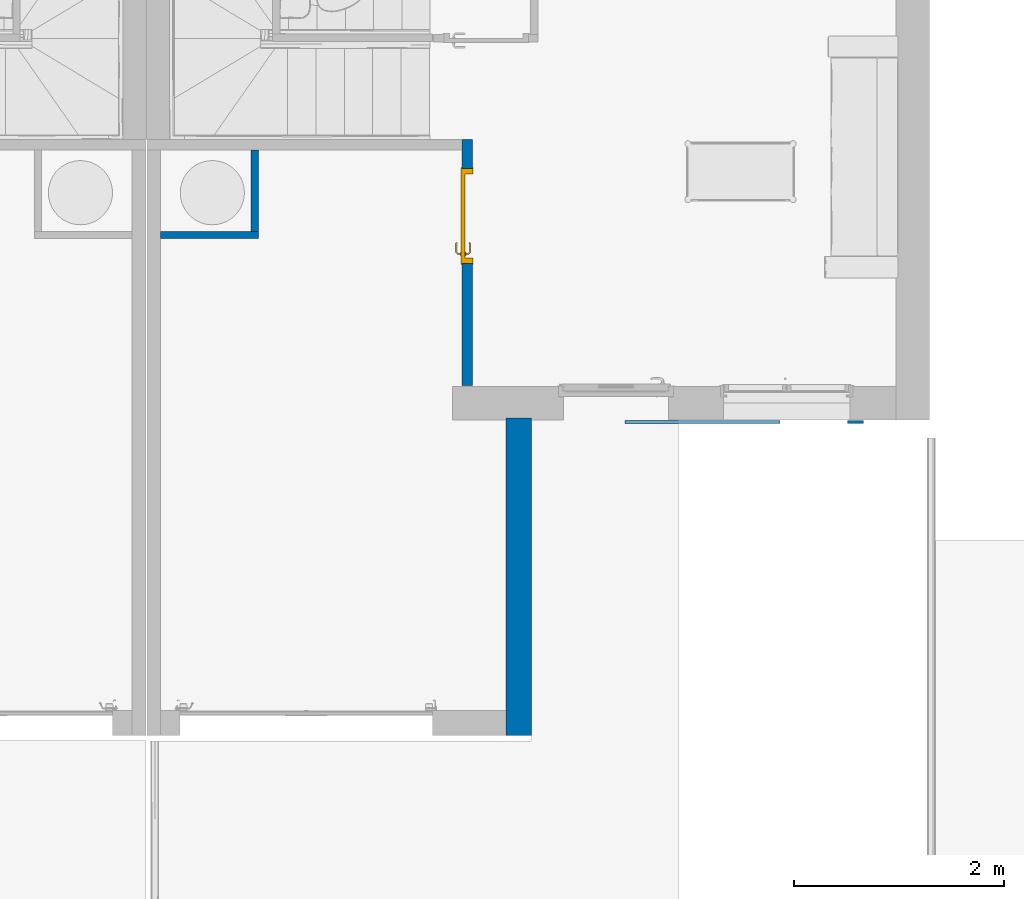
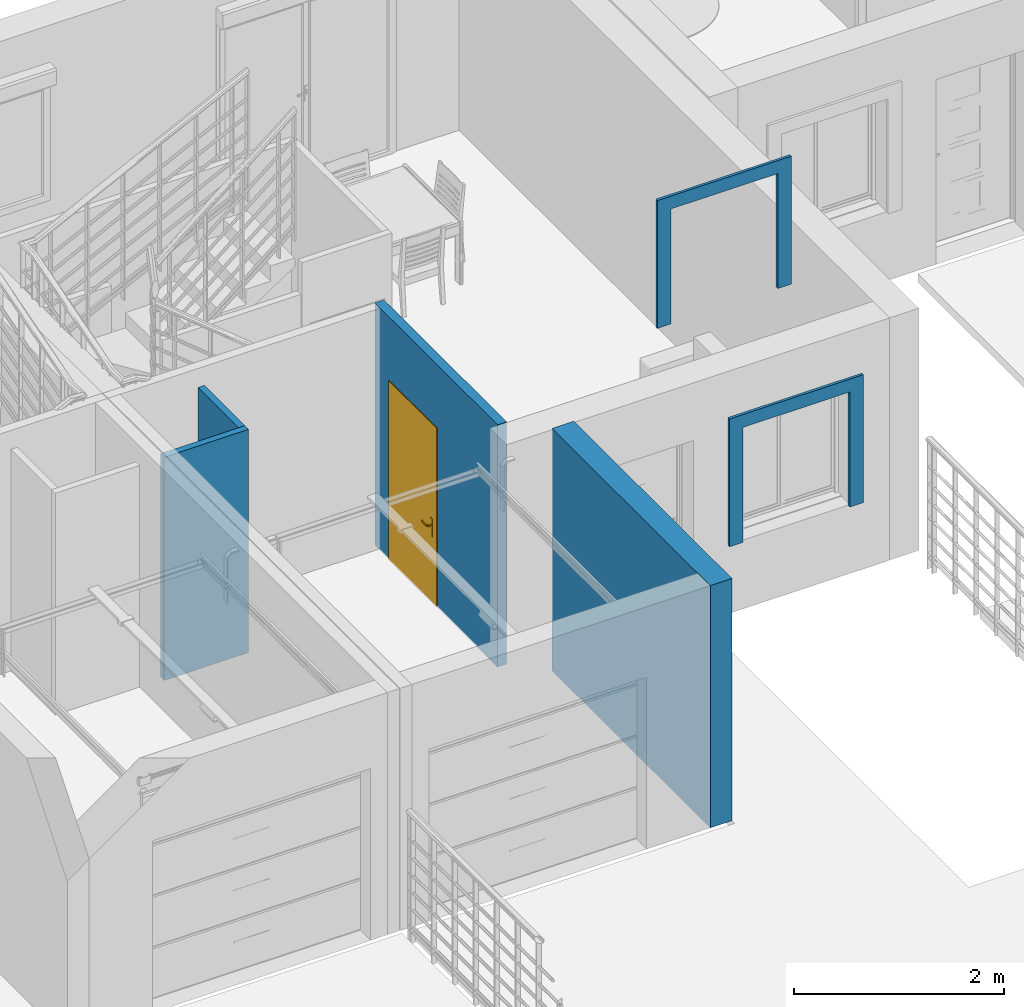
# One storey, part 7 of 30: 6 walls, 1 door, 3 openings.
"""IFC2X3 building model written with IfcOpenShell, lengths in metres."""

from ifc_helpers import new_model, entity, si_unit, converted_unit, derived_unit, direction, frame, frame_2d, origin, place, context, subcontext, project, spatial, rectangle, extrude, clip, halfspace, faceted_brep, source, transform, mapped, material, material_list, layer, layer_set, layer_usage, type_object, type_shapes, element, fill, save


model = new_model("IFC2X3")

# Units and contexts
model_context = context("Model", 3, precision=1e-05, world=origin(), true_north=direction((6.12303176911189e-17, 1.0)))
body_context = subcontext(model_context, "Body", "Model", "MODEL_VIEW")
ifc_project = project(units=[si_unit("LENGTHUNIT", "METRE"), si_unit("AREAUNIT", "SQUARE_METRE"), si_unit("VOLUMEUNIT", "CUBIC_METRE"), converted_unit("PLANEANGLEUNIT", "DEGREE", entity("IfcRatioMeasure", 0.0174532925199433), si_unit("PLANEANGLEUNIT", "RADIAN"), dimensions=[0, 0, 0, 0, 0, 0, 0]), si_unit("MASSUNIT", "GRAM", prefix="KILO"), derived_unit("MASSDENSITYUNIT", [(si_unit("MASSUNIT", "GRAM", prefix="KILO"), 1), (si_unit("LENGTHUNIT", "METRE"), -3)]), si_unit("TIMEUNIT", "SECOND"), si_unit("FREQUENCYUNIT", "HERTZ"), si_unit("THERMODYNAMICTEMPERATUREUNIT", "DEGREE_CELSIUS"), derived_unit("THERMALTRANSMITTANCEUNIT", [(si_unit("MASSUNIT", "GRAM", prefix="KILO"), 1), (si_unit("THERMODYNAMICTEMPERATUREUNIT", "KELVIN"), -1), (si_unit("TIMEUNIT", "SECOND"), -3)]), derived_unit("VOLUMETRICFLOWRATEUNIT", [(si_unit("LENGTHUNIT", "METRE"), 3), (si_unit("TIMEUNIT", "SECOND"), -1)]), si_unit("ELECTRICCURRENTUNIT", "AMPERE"), si_unit("ELECTRICVOLTAGEUNIT", "VOLT"), si_unit("POWERUNIT", "WATT"), si_unit("FORCEUNIT", "NEWTON", prefix="KILO"), si_unit("ILLUMINANCEUNIT", "LUX"), si_unit("LUMINOUSFLUXUNIT", "LUMEN"), si_unit("LUMINOUSINTENSITYUNIT", "CANDELA"), derived_unit("USERDEFINED", [(si_unit("MASSUNIT", "GRAM", prefix="KILO"), -1), (si_unit("LENGTHUNIT", "METRE"), -2), (si_unit("TIMEUNIT", "SECOND"), 3), (si_unit("LUMINOUSFLUXUNIT", "LUMEN"), 1)]), derived_unit("LINEARVELOCITYUNIT", [(si_unit("LENGTHUNIT", "METRE"), 1), (si_unit("TIMEUNIT", "SECOND"), -1)]), si_unit("PRESSUREUNIT", "PASCAL"), derived_unit("USERDEFINED", [(si_unit("LENGTHUNIT", "METRE"), -2), (si_unit("MASSUNIT", "GRAM", prefix="KILO"), 1), (si_unit("TIMEUNIT", "SECOND"), -2)])], contexts=[model_context])

# Site, building, storey
site_placement = place(None, origin())
site = spatial("IfcSite", under=ifc_project, at=site_placement, Name="Surface", CompositionType="ELEMENT")
building_placement = place(site_placement, origin())
building = spatial("IfcBuilding", under=site, at=building_placement, CompositionType="ELEMENT")
storey_placement = place(building_placement, origin())
storey = spatial("IfcBuildingStorey", under=building, at=storey_placement, Name="Plan des fondations  Maisons 1 et 2", CompositionType="ELEMENT", Elevation=0.0)

# Wall
ifc_material_1 = material(Name="Enduit  gris")
ifc_layer_1 = layer(ifc_material_1, 0.02)
ifc_material_2 = material(Name="Parpaing")
ifc_layer_2 = layer(ifc_material_2, 0.2)
ifc_layer_3 = layer(ifc_material_1, 0.02)
ifc_layer_set_1 = layer_set([ifc_layer_1, ifc_layer_2, ifc_layer_3], Name="Mur de base:Ext. Parpaing 2 + 20 + 2 gris")
ifc_layer_usage_1 = layer_usage(ifc_layer_set_1, "AXIS2", "NEGATIVE", 0.12)
wall_type_1 = type_object("IfcWallType", Name="Mur de base:Ext. Parpaing 2 + 20 + 2 gris", PredefinedType="STANDARD", material=ifc_layer_set_1)
wall_1_placement = place(storey_placement, frame((72.3746263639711, 76.8877566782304, 0.0), z_axis=(0.0, 0.0, 1.0), x_axis=(0.0, 1.0, 0.0)))
element("IfcWallStandardCase", 1, at=wall_1_placement, inside=storey, type_object=wall_type_1, material=ifc_layer_usage_1, Name="Mur de base:Ext. Parpaing 2 + 20 + 2 gris", ObjectType="Mur de base:Ext. Parpaing 2 + 20 + 2 gris", context=body_context, shape_type="SweptSolid", body=[
    extrude(rectangle(XDim=3.02000000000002, YDim=0.239999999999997, at=frame_2d((1.51000000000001, 5.41233724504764e-16), x_axis=(-1.0, 0.0))), origin(), (0.0, 0.0, 1.0), 2.82),
])

# Wall, opening, door
ifc_material_3 = material(Name="Peinture - Blanc")
ifc_layer_4 = layer(ifc_material_3, 0.1)
ifc_layer_set_2 = layer_set([ifc_layer_4], Name="Mur de base:Int.  Platre 100 mm en blanc 2")
ifc_layer_usage_2 = layer_usage(ifc_layer_set_2, "AXIS2", "NEGATIVE", 0.05)
wall_type_2 = type_object("IfcWallType", Name="Mur de base:Int.  Platre 100 mm en blanc 2", PredefinedType="STANDARD", material=ifc_layer_set_2)
wall_2_placement = place(storey_placement, frame((71.8846263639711, 80.2177566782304, 0.0), z_axis=(0.0, 0.0, 1.0), x_axis=(0.0, 1.0, 0.0)))
wall_2 = element("IfcWallStandardCase", 2, at=wall_2_placement, inside=storey, type_object=wall_type_2, material=ifc_layer_usage_2, Name="Mur de base:Int.  Platre 100 mm en blanc 2", ObjectType="Mur de base:Int.  Platre 100 mm en blanc 2", context=body_context, shape_type="SweptSolid", body=[
    extrude(rectangle(XDim=2.33999999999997, YDim=0.0999999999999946, at=frame_2d((1.16999999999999, -5.58580959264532e-16), x_axis=(-1.0, 0.0))), origin(), (0.0, 0.0, 1.0), 2.82),
])
opening_1_placement = place(wall_2_placement, frame((1.15999999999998, -0.0499999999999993, 0.0)))
opening_1 = element("IfcOpeningElement", 3, at=opening_1_placement, cuts=wall_2, Name="FR_Simple (R):83 x 204 - (80):1", ObjectType="Opening", context=body_context, shape_type="SweptSolid", body=[
    extrude(rectangle(XDim=2.075, YDim=0.9, at=frame_2d((1.0375, 0.45), x_axis=(1.0, 0.0))), frame((0.0, 0.0, 0.0), z_axis=(0.0, 1.0, 0.0), x_axis=(0.0, 0.0, 1.0)), (0.0, 0.0, 1.0), 0.1),
])
ifc_material_4 = material(Name="Poignée Porte")
ifc_material_5 = material(Name="Dormants Portes")
ifc_material_6 = material(Name="Panneaux Portes")
ifc_material_list_1 = material_list([ifc_material_4, ifc_material_5, ifc_material_6])
ifc_material_list_2 = material_list([ifc_material_4, ifc_material_5, ifc_material_6])
door_style = type_object("IfcDoorStyle", Name="83 x 204 - (80)", ConstructionType="NOTDEFINED", OperationType="SINGLE_SWING_RIGHT", ParameterTakesPrecedence=False, Sizeable=False, material=ifc_material_list_2)
shared_shape = source(origin(), body_context, "Body", "Brep", [
    faceted_brep([(0.810000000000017, -0.0130000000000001, 0.764641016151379), (0.820352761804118, -0.0130000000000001, 0.766003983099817), (0.830000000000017, -0.0130000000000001, 0.770000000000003), (0.830000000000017, -0.0130000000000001, 0.980000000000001), (0.820352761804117, -0.0130000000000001, 0.983996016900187), (0.810000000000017, -0.0130000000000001, 0.985358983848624), (0.799647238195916, -0.0130000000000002, 0.983996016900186), (0.790000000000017, -0.0130000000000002, 0.980000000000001), (0.790000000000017, -0.0130000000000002, 0.770000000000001), (0.799647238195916, -0.0130000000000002, 0.766003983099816), (0.830000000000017, -0.00800000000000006, 0.980000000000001), (0.830000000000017, -0.00800000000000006, 0.770000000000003), (0.820352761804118, -0.00800000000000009, 0.766003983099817), (0.810000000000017, -0.00800000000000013, 0.764641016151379), (0.799647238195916, -0.00800000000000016, 0.766003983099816), (0.790000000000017, -0.00800000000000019, 0.770000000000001), (0.790000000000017, -0.00800000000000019, 0.980000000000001), (0.799647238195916, -0.00800000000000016, 0.983996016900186), (0.810000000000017, -0.00800000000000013, 0.985358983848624), (0.820352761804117, -0.00800000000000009, 0.983996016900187)], [[[0, 1, 2, 3, 4, 5, 6, 7, 8, 9]], [[10, 11, 12, 13, 14, 15, 16, 17, 18, 19]], [[1, 12, 11, 2]], [[0, 13, 12, 1]], [[9, 14, 13, 0]], [[9, 8, 15, 14]], [[15, 8, 7, 16]], [[6, 17, 16, 7]], [[5, 18, 17, 6]], [[4, 19, 18, 5]], [[4, 3, 10, 19]], [[10, 3, 2, 11]]]),
    faceted_brep([(0.830000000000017, 0.0319999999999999, 0.770000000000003), (0.830000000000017, 0.0319999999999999, 0.980000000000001), (0.820352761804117, 0.0319999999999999, 0.983996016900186), (0.810000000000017, 0.0319999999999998, 0.985358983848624), (0.799647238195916, 0.0319999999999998, 0.983996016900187), (0.790000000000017, 0.0319999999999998, 0.980000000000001), (0.790000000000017, 0.0319999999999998, 0.770000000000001), (0.799647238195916, 0.0319999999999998, 0.766003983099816), (0.810000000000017, 0.0319999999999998, 0.764641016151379), (0.820352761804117, 0.0319999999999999, 0.766003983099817), (0.810000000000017, 0.0369999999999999, 0.985358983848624), (0.820352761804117, 0.0369999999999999, 0.983996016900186), (0.830000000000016, 0.0369999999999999, 0.980000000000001), (0.830000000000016, 0.0369999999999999, 0.770000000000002), (0.820352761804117, 0.0369999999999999, 0.766003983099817), (0.810000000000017, 0.0369999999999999, 0.764641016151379), (0.799647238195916, 0.0369999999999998, 0.766003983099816), (0.790000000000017, 0.0369999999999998, 0.770000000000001), (0.790000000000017, 0.0369999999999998, 0.980000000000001), (0.799647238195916, 0.0369999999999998, 0.983996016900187)], [[[0, 1, 2, 3, 4, 5, 6, 7, 8, 9]], [[10, 11, 12, 13, 14, 15, 16, 17, 18, 19]], [[4, 19, 18, 5]], [[3, 10, 19, 4]], [[2, 11, 10, 3]], [[2, 1, 12, 11]], [[12, 1, 0, 13]], [[9, 14, 13, 0]], [[8, 15, 14, 9]], [[7, 16, 15, 8]], [[7, 6, 17, 16]], [[17, 6, 5, 18]]]),
    faceted_brep([(0.807974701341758, -0.0130000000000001, 0.907780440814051), (0.812025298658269, -0.0130000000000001, 0.907780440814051), (0.816000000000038, -0.0130000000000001, 0.906999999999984), (0.816000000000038, -0.0130000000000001, 0.892999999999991), (0.812025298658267, -0.0130000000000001, 0.892219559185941), (0.807974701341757, -0.0130000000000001, 0.89221955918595), (0.80399999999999, -0.0130000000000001, 0.893000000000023), (0.803999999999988, -0.0130000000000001, 0.90699999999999), (0.812025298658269, -0.0390045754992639, 0.907780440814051), (0.816000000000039, -0.0406509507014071, 0.906999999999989), (0.807974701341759, -0.0373267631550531, 0.907780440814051), (0.794298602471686, -0.0510028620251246, 0.907780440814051), (0.795976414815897, -0.0550534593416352, 0.907780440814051), (0.709142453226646, -0.0550534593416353, 0.90778044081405), (0.710820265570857, -0.0510028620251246, 0.90778044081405), (0.704342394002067, -0.0445249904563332, 0.90778044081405), (0.701478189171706, -0.0473891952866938, 0.90778044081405), (0.803999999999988, -0.0356803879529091, 0.90699999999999), (0.80399999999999, -0.0356803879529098, 0.893000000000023), (0.807974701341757, -0.0373267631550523, 0.89221955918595), (0.812025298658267, -0.0390045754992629, 0.89221955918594), (0.795976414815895, -0.0550534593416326, 0.89221955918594), (0.794298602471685, -0.0510028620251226, 0.89221955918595), (0.710820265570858, -0.0510028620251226, 0.89221955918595), (0.709142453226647, -0.0550534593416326, 0.89221955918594), (0.701478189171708, -0.0473891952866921, 0.89221955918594), (0.704342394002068, -0.044524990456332, 0.89221955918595), (0.816000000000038, -0.0406509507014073, 0.892999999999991), (0.797622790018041, -0.059028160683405, 0.906999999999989), (0.792652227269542, -0.0470281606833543, 0.90699999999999), (0.792652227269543, -0.0470281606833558, 0.893000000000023), (0.79762279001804, -0.0590281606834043, 0.892999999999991), (0.752559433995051, -0.053182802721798, 0.907878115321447), (0.757692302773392, -0.0590281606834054, 0.906999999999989), (0.707496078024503, -0.0590281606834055, 0.906999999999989), (0.752559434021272, -0.0470281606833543, 0.90699999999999), (0.712466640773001, -0.0470281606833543, 0.906999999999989), (0.752559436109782, -0.0470281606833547, 0.893000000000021), (0.712466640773, -0.0470281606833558, 0.893000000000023), (0.752559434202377, -0.0531828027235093, 0.892121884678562), (0.747426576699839, -0.0590281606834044, 0.892999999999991), (0.707496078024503, -0.0590281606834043, 0.892999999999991), (0.707152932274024, -0.0417144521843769, 0.89300000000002), (0.69866765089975, -0.0501997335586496, 0.892999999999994), (0.698667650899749, -0.0501997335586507, 0.906999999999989), (0.707152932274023, -0.0417144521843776, 0.906999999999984)], [[[0, 1, 2, 3, 4, 5, 6, 7]], [[2, 1, 8, 9]], [[1, 0, 10, 11, 12, 8]], [[13, 14, 15, 16]], [[0, 7, 17, 10]], [[18, 17, 7, 6]], [[5, 19, 18, 6]], [[5, 4, 20, 21, 22, 19]], [[23, 24, 25, 26]], [[3, 27, 20, 4]], [[9, 27, 3, 2]], [[9, 8, 12, 28]], [[10, 17, 29, 11]], [[30, 29, 17, 18]], [[18, 19, 22, 30]], [[20, 27, 31, 21]], [[28, 31, 27, 9]], [[12, 32, 33]], [[13, 33, 32]], [[33, 28, 12]], [[33, 13, 34]], [[11, 35, 32]], [[32, 12, 11]], [[32, 35, 14]], [[35, 11, 29]], [[36, 14, 35]], [[13, 32, 14]], [[30, 37, 38, 36, 35, 29]], [[39, 37, 22]], [[40, 41, 24]], [[40, 21, 31]], [[39, 21, 40]], [[23, 37, 39]], [[39, 24, 23]], [[30, 22, 37]], [[37, 23, 38]], [[21, 39, 22]], [[24, 39, 40]], [[31, 28, 33, 34, 41, 40]], [[42, 26, 25, 43, 44, 16, 15, 45]], [[13, 16, 44, 34]], [[36, 45, 15, 14]], [[42, 45, 36, 38]], [[38, 23, 26, 42]], [[24, 41, 43, 25]], [[44, 43, 41, 34]]]),
    faceted_brep([(0.812025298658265, 0.0369999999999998, 0.907780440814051), (0.807974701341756, 0.0369999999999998, 0.907780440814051), (0.803999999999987, 0.0369999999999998, 0.90699999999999), (0.803999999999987, 0.0369999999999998, 0.89300000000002), (0.807974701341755, 0.0369999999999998, 0.892219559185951), (0.812025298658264, 0.0369999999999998, 0.892219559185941), (0.816000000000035, 0.0369999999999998, 0.892999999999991), (0.816000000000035, 0.0369999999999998, 0.90699999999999), (0.803999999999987, 0.0594852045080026, 0.90699999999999), (0.803999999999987, 0.0594852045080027, 0.89300000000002), (0.807974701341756, 0.0611315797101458, 0.907780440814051), (0.812025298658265, 0.0628093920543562, 0.907780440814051), (0.795838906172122, 0.0789957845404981, 0.907780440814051), (0.794161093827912, 0.0749451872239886, 0.907780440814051), (0.71079312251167, 0.0749451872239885, 0.907780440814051), (0.70911531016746, 0.0789957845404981, 0.907780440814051), (0.701451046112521, 0.071331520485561, 0.907780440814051), (0.70431525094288, 0.0684673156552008, 0.907780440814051), (0.816000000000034, 0.0644557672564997, 0.90699999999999), (0.816000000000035, 0.0644557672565, 0.892999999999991), (0.812025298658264, 0.0628093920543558, 0.892219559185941), (0.807974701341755, 0.0611315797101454, 0.892219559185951), (0.794161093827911, 0.0749451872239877, 0.892219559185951), (0.795838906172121, 0.0789957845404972, 0.892219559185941), (0.70911531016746, 0.0789957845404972, 0.89221955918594), (0.71079312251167, 0.0749451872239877, 0.89221955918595), (0.704315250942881, 0.0684673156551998, 0.89221955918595), (0.701451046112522, 0.07133152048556, 0.89221955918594), (0.792514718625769, 0.07097048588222, 0.89300000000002), (0.792514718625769, 0.0709704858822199, 0.90699999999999), (0.797485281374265, 0.0829704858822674, 0.90699999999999), (0.797485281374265, 0.082970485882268, 0.892999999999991), (0.752477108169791, 0.0709704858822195, 0.90699999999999), (0.712439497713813, 0.0709704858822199, 0.90699999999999), (0.712439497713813, 0.0709704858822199, 0.89300000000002), (0.752477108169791, 0.0709704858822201, 0.89300000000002), (0.752477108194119, 0.0771249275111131, 0.907878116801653), (0.747399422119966, 0.0829704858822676, 0.90699999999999), (0.707468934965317, 0.0829704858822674, 0.90699999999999), (0.757554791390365, 0.0829704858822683, 0.892999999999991), (0.707468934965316, 0.082970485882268, 0.892999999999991), (0.752477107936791, 0.0771249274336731, 0.892121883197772), (0.698640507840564, 0.0741420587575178, 0.90699999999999), (0.698640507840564, 0.074142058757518, 0.892999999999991), (0.707125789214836, 0.0656567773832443, 0.89300000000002), (0.707125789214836, 0.0656567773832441, 0.90699999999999)], [[[0, 1, 2, 3, 4, 5, 6, 7]], [[8, 9, 3, 2]], [[1, 10, 8, 2]], [[1, 0, 11, 12, 13, 10]], [[14, 15, 16, 17]], [[7, 18, 11, 0]], [[18, 7, 6, 19]], [[6, 5, 20, 19]], [[5, 4, 21, 22, 23, 20]], [[24, 25, 26, 27]], [[4, 3, 9, 21]], [[28, 9, 8, 29]], [[8, 10, 13, 29]], [[18, 30, 12, 11]], [[31, 30, 18, 19]], [[19, 20, 23, 31]], [[21, 9, 28, 22]], [[28, 29, 32, 33, 34, 35]], [[36, 32, 13]], [[37, 38, 15]], [[37, 12, 30]], [[36, 12, 37]], [[14, 32, 36]], [[36, 15, 14]], [[29, 13, 32]], [[32, 14, 33]], [[12, 36, 13]], [[15, 36, 37]], [[30, 31, 39, 40, 38, 37]], [[23, 41, 39]], [[24, 39, 41]], [[39, 31, 23]], [[39, 24, 40]], [[22, 35, 41]], [[41, 23, 22]], [[41, 35, 25]], [[35, 22, 28]], [[34, 25, 35]], [[24, 41, 25]], [[17, 16, 42, 43, 27, 26, 44, 45]], [[44, 34, 33, 45]], [[33, 14, 17, 45]], [[15, 38, 42, 16]], [[42, 38, 40, 43]], [[24, 27, 43, 40]], [[34, 44, 26, 25]]]),
    faceted_brep([(0.900000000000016, 0.0, 0.0), (0.910000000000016, 0.0, 0.0), (0.910000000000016, -0.00799999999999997, 0.0), (0.865000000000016, -0.00799999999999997, 0.0), (0.865000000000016, 0.032, 0.0), (0.850000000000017, 0.032, 0.0), (0.850000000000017, 0.108000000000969, 0.0), (0.910000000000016, 0.108000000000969, 0.0), (0.910000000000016, 0.10000000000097, 0.0), (0.900000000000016, 0.10000000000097, 0.0), (0.900000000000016, 0.10000000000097, 2.075), (0.900000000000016, 0.0, 2.075), (0.910000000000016, 0.10000000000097, 2.085), (-0.00999999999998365, 0.10000000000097, 2.085), (-0.00999999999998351, 0.10000000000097, 0.0), (0.0, 0.10000000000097, 0.0), (0.0, 0.10000000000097, 2.075), (0.910000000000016, 0.108000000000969, 2.085), (0.850000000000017, 0.108000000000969, 2.025), (0.0500000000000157, 0.108000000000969, 2.025), (0.0500000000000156, 0.108000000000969, 0.0), (-0.00999999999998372, 0.108000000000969, 0.0), (-0.00999999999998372, 0.108000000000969, 2.085), (0.850000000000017, 0.032, 2.025), (0.865000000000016, 0.032, 2.04), (0.0350000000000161, 0.032, 2.04), (0.0350000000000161, 0.032, 0.0), (0.0500000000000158, 0.032, 0.0), (0.0500000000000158, 0.032, 2.025), (0.865000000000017, -0.00799999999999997, 2.04), (0.910000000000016, -0.00799999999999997, 2.085), (-0.00999999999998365, -0.00799999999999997, 2.085), (-0.00999999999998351, -0.00799999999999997, 0.0), (0.0350000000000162, -0.00799999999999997, 0.0), (0.0350000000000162, -0.00799999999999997, 2.04), (0.910000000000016, 0.0, 2.085), (0.0, 0.0, 2.075), (0.0, 0.0, 0.0), (-0.00999999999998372, 0.0, 0.0), (-0.00999999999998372, 0.0, 2.085)], [[[0, 1, 2, 3, 4, 5, 6, 7, 8, 9]], [[9, 10, 11, 0]], [[8, 12, 13, 14, 15, 16, 10, 9]], [[7, 17, 12, 8]], [[6, 18, 19, 20, 21, 22, 17, 7]], [[5, 23, 18, 6]], [[4, 24, 25, 26, 27, 28, 23, 5]], [[3, 29, 24, 4]], [[2, 30, 31, 32, 33, 34, 29, 3]], [[1, 35, 30, 2]], [[0, 11, 36, 37, 38, 39, 35, 1]], [[10, 16, 36, 11]], [[17, 22, 13, 12]], [[23, 28, 19, 18]], [[29, 34, 25, 24]], [[35, 39, 31, 30]], [[37, 15, 14, 21, 20, 27, 26, 33, 32, 38]], [[16, 15, 37, 36]], [[22, 21, 14, 13]], [[28, 27, 20, 19]], [[34, 33, 26, 25]], [[39, 38, 32, 31]]]),
    faceted_brep([(0.865000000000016, -0.00799999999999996, 2.04), (0.0350000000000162, -0.00799999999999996, 2.04), (0.0350000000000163, -0.00799999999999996, 0.0), (0.865000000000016, -0.00799999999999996, 0.0), (0.865000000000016, 0.032, 2.04), (0.865000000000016, 0.032, 0.0), (0.0350000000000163, 0.032, 0.0), (0.0350000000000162, 0.032, 2.04)], [[[0, 1, 2, 3]], [[4, 5, 6, 7]], [[3, 5, 4, 0]], [[2, 6, 5, 3]], [[1, 7, 6, 2]], [[0, 4, 7, 1]]]),
])
type_shapes(door_style, [shared_shape])
door_placement = place(opening_1_placement, frame((0.900000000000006, 0.0999999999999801, 0.0), z_axis=(0.0, 0.0, 1.0), x_axis=(-1.0, 0.0, 0.0)))
door = element("IfcDoor", 4, at=door_placement, inside=storey, type_object=door_style, material=ifc_material_list_1, Name="FR_Simple (R):83 x 204 - (80)", ObjectType="FR_Simple (R):83 x 204 - (80)", OverallHeight=2.075, OverallWidth=0.900000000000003, context=body_context, shape_type="MappedRepresentation", body=[
    mapped(shared_shape, transform((0.0, 0.0, 0.0), scale=1.0)),
])
fill(opening_1, door)

# Walls
ifc_layer_5 = layer(ifc_material_3, 0.07)
ifc_layer_set_3 = layer_set([ifc_layer_5], Name="Mur de base:Int.  Platre 70 mm en blanc")
ifc_layer_usage_3 = layer_usage(ifc_layer_set_3, "AXIS2", "NEGATIVE", 0.035)
wall_type_3 = type_object("IfcWallType", Name="Mur de base:Int.  Platre 70 mm en blanc", PredefinedType="STANDARD", material=ifc_layer_set_3)
wall_3_placement = place(storey_placement, frame((68.9696263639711, 81.6477566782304, 0.0)))
element("IfcWallStandardCase", 5, at=wall_3_placement, inside=storey, type_object=wall_type_3, material=ifc_layer_usage_3, Name="Mur de base:Int.  Platre 70 mm en blanc", ObjectType="Mur de base:Int.  Platre 70 mm en blanc", context=body_context, shape_type="SweptSolid", body=[
    extrude(rectangle(XDim=0.929999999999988, YDim=0.0699999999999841, at=frame_2d((0.464999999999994, 0.0), x_axis=(-1.0, 0.0))), origin(), (0.0, 0.0, 1.0), 2.6),
])
ifc_layer_usage_4 = layer_usage(ifc_layer_set_3, "AXIS2", "NEGATIVE", 0.035)
wall_4_placement = place(storey_placement, frame((69.8646263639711, 81.6827566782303, 0.0), z_axis=(0.0, 0.0, 1.0), x_axis=(0.0, 1.0, 0.0)))
element("IfcWallStandardCase", 6, at=wall_4_placement, inside=storey, type_object=wall_type_3, material=ifc_layer_usage_4, Name="Mur de base:Int.  Platre 70 mm en blanc", ObjectType="Mur de base:Int.  Platre 70 mm en blanc", context=body_context, shape_type="SweptSolid", body=[
    extrude(rectangle(XDim=0.774999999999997, YDim=0.0700000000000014, at=frame_2d((0.387499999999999, 0.0), x_axis=(-1.0, 0.0))), origin(), (0.0, 0.0, 1.0), 2.6),
])

# Wall, opening
ifc_material_7 = material(Name="Enduit blanc cassé")
ifc_layer_6 = layer(ifc_material_7, 0.01)
ifc_layer_7 = layer(ifc_material_2, 0.01)
ifc_layer_8 = layer(ifc_material_7, 0.01)
ifc_layer_set_4 = layer_set([ifc_layer_6, ifc_layer_7, ifc_layer_8], Name="Mur de base:modénateurs ep 2 cm gris")
ifc_layer_usage_5 = layer_usage(ifc_layer_set_4, "AXIS2", "NEGATIVE", 0.015)
wall_type_4 = type_object("IfcWallType", Name="Mur de base:modénateurs ep 2 cm gris", PredefinedType="STANDARD", material=ifc_layer_set_4)
wall_5_placement = place(storey_placement, frame((74.1778893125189, 79.8677566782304, 0.799999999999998)))
wall_5 = element("IfcWallStandardCase", 7, at=wall_5_placement, inside=storey, type_object=wall_type_4, material=ifc_layer_usage_5, Name="Mur de base:modénateurs ep 2 cm gris", ObjectType="Mur de base:modénateurs ep 2 cm gris", context=body_context, shape_type="SweptSolid", body=[
    extrude(rectangle(XDim=1.47499999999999, YDim=0.0299999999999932, at=frame_2d((0.737499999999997, 0.0), x_axis=(-1.0, 0.0))), origin(), (0.0, 0.0, 1.0), 1.48912543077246),
])
opening_2_placement = place(wall_5_placement, origin())
element("IfcOpeningElement", 8, at=opening_2_placement, cuts=wall_5, Name="Mur de base:modénateurs ep 2 cm gris", ObjectType="Opening", context=body_context, shape_type="SweptSolid", body=[
    extrude(rectangle(XDim=1.33912543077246, YDim=1.17499999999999, at=frame_2d((0.0, 0.0), x_axis=(0.0, 1.0))), frame((0.737499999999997, 0.0149999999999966, 0.669562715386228), z_axis=(0.0, -1.0, 0.0), x_axis=(1.0, 0.0, 0.0)), (0.0, 0.0, 1.0), 0.03),
])

ifc_layer_usage_6 = layer_usage(ifc_layer_set_4, "AXIS2", "NEGATIVE", 0.015)
wall_6_placement = place(storey_placement, frame((73.3844726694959, 79.8677566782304, 3.62087456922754)))
wall_6 = element("IfcWallStandardCase", 9, at=wall_6_placement, inside=storey, type_object=wall_type_4, material=ifc_layer_usage_6, Name="Mur de base:modénateurs ep 2 cm gris", ObjectType="Mur de base:modénateurs ep 2 cm gris", context=body_context, shape_type="Clipping", body=[
    clip(extrude(rectangle(XDim=1.47499999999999, YDim=0.0299999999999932, at=frame_2d((0.737499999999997, 0.0), x_axis=(-1.0, 0.0))), origin(), (0.0, 0.0, 1.0), 1.48912543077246), halfspace(frame((1.47499999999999, -0.0149999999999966, 0.0), z_axis=(0.0, 0.0, -1.0), x_axis=(0.0, 1.0, 0.0)), False)),
])
opening_3_placement = place(wall_6_placement, origin())
element("IfcOpeningElement", 10, at=opening_3_placement, cuts=wall_6, Name="Mur de base:modénateurs ep 2 cm gris", ObjectType="Opening", context=body_context, shape_type="SweptSolid", body=[
    extrude(rectangle(XDim=1.33912543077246, YDim=1.17499999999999, at=frame_2d((0.0, 2.77555756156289e-16), x_axis=(0.0, 1.0))), frame((0.737499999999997, 0.0149999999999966, 0.669562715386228), z_axis=(0.0, -1.0, 0.0), x_axis=(1.0, 0.0, 0.0)), (0.0, 0.0, 1.0), 0.03),
])

save(model, "model.ifc")
